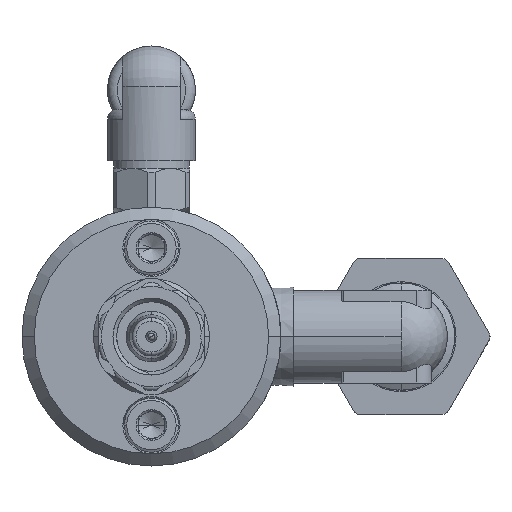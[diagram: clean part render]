
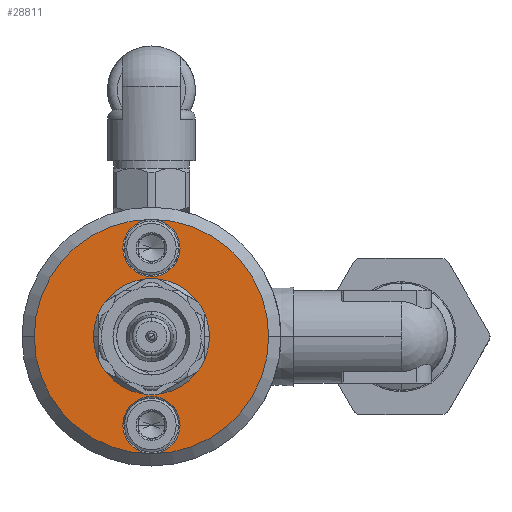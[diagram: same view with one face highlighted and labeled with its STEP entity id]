
A CAD part, front view. The second image highlights one B-rep face of the part: STEP entity #28811.
In plain terms, the highlighted planar face has unit normal (0, -1, 0).
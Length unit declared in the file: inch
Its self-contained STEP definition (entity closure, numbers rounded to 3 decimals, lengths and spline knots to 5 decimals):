
#455 = EDGE_CURVE ( 'NONE', #2582, #9539, #8352, .T. ) ;
#805 = DIRECTION ( 'NONE',  ( 0., -1., 0. ) ) ;
#2208 = CARTESIAN_POINT ( 'NONE',  ( 0., -0.875, 0. ) ) ;
#2582 = VERTEX_POINT ( 'NONE', #26136 ) ;
#2835 = CARTESIAN_POINT ( 'NONE',  ( 0., -0.875, 0.2375 ) ) ;
#3048 = AXIS2_PLACEMENT_3D ( 'NONE', #6895, #42625, #25022 ) ;
#3772 = EDGE_LOOP ( 'NONE', ( #54488, #8629 ) ) ;
#6806 = CIRCLE ( 'NONE', #3048, 0.117 ) ;
#6895 = CARTESIAN_POINT ( 'NONE',  ( 0., -0.875, -0.3625 ) ) ;
#7661 = DIRECTION ( 'NONE',  ( 1., 0., 0. ) ) ;
#7795 = FACE_BOUND ( 'NONE', #9632, .T. ) ;
#7963 = AXIS2_PLACEMENT_3D ( 'NONE', #33498, #20331, #38191 ) ;
#8094 = PLANE ( 'NONE',  #39890 ) ;
#8352 = CIRCLE ( 'NONE', #57918, 0.117 ) ;
#8629 = ORIENTED_EDGE ( 'NONE', *, *, #9561, .T. ) ;
#9539 = VERTEX_POINT ( 'NONE', #16868 ) ;
#9561 = EDGE_CURVE ( 'NONE', #14913, #14944, #54001, .T. ) ;
#9632 = EDGE_LOOP ( 'NONE', ( #32174, #35870 ) ) ;
#10033 = CIRCLE ( 'NONE', #42749, 0.2375 ) ;
#11746 = EDGE_LOOP ( 'NONE', ( #55414, #28867 ) ) ;
#11786 = DIRECTION ( 'NONE',  ( 0., -1., 0. ) ) ;
#14214 = CARTESIAN_POINT ( 'NONE',  ( -0.2375, -0.875, 0. ) ) ;
#14913 = VERTEX_POINT ( 'NONE', #29399 ) ;
#14944 = VERTEX_POINT ( 'NONE', #47906 ) ;
#15330 = EDGE_CURVE ( 'NONE', #41806, #39871, #37256, .T. ) ;
#15612 = EDGE_CURVE ( 'NONE', #9539, #2582, #34492, .T. ) ;
#15787 = CARTESIAN_POINT ( 'NONE',  ( 0.2375, -0.875, 0. ) ) ;
#16868 = CARTESIAN_POINT ( 'NONE',  ( 0.117, -0.875, 0.3625 ) ) ;
#17959 = ORIENTED_EDGE ( 'NONE', *, *, #15612, .F. ) ;
#18622 = AXIS2_PLACEMENT_3D ( 'NONE', #37747, #33061, #51834 ) ;
#20331 = DIRECTION ( 'NONE',  ( 0., -1., 0. ) ) ;
#20447 = AXIS2_PLACEMENT_3D ( 'NONE', #38685, #11786, #47205 ) ;
#20808 = DIRECTION ( 'NONE',  ( 0., -1., 0. ) ) ;
#22580 = EDGE_CURVE ( 'NONE', #14944, #14913, #55635, .T. ) ;
#25022 = DIRECTION ( 'NONE',  ( -1., 0., 0. ) ) ;
#26136 = CARTESIAN_POINT ( 'NONE',  ( -0.117, -0.875, 0.3625 ) ) ;
#27104 = CARTESIAN_POINT ( 'NONE',  ( 0., -0.875, 0. ) ) ;
#27721 = CARTESIAN_POINT ( 'NONE',  ( -0.117, -0.875, -0.3625 ) ) ;
#27833 = CARTESIAN_POINT ( 'NONE',  ( 0., -0.875, -0.3625 ) ) ;
#28811 = ADVANCED_FACE ( 'NONE', ( #30287, #48208, #42946, #7795 ), #8094, .T. ) ;
#28867 = ORIENTED_EDGE ( 'NONE', *, *, #55814, .F. ) ;
#29399 = CARTESIAN_POINT ( 'NONE',  ( 0.48, -0.875, 0. ) ) ;
#30287 = FACE_BOUND ( 'NONE', #11746, .T. ) ;
#32174 = ORIENTED_EDGE ( 'NONE', *, *, #53404, .F. ) ;
#33061 = DIRECTION ( 'NONE',  ( 0., -1., 0. ) ) ;
#33498 = CARTESIAN_POINT ( 'NONE',  ( 0., -0.875, 0. ) ) ;
#33834 = ORIENTED_EDGE ( 'NONE', *, *, #455, .F. ) ;
#34492 = CIRCLE ( 'NONE', #18622, 0.117 ) ;
#34992 = DIRECTION ( 'NONE',  ( 0., -1., 0. ) ) ;
#35870 = ORIENTED_EDGE ( 'NONE', *, *, #15330, .F. ) ;
#36722 = DIRECTION ( 'NONE',  ( 1., 0., 0. ) ) ;
#37081 = AXIS2_PLACEMENT_3D ( 'NONE', #27104, #805, #54094 ) ;
#37256 = CIRCLE ( 'NONE', #20447, 0.2375 ) ;
#37747 = CARTESIAN_POINT ( 'NONE',  ( 0., -0.875, 0.3625 ) ) ;
#38191 = DIRECTION ( 'NONE',  ( 1., 0., 0. ) ) ;
#38685 = CARTESIAN_POINT ( 'NONE',  ( 0., -0.875, 0. ) ) ;
#39871 = VERTEX_POINT ( 'NONE', #15787 ) ;
#39890 = AXIS2_PLACEMENT_3D ( 'NONE', #2835, #34992, #52310 ) ;
#41343 = DIRECTION ( 'NONE',  ( 0., -1., 0. ) ) ;
#41806 = VERTEX_POINT ( 'NONE', #14214 ) ;
#42625 = DIRECTION ( 'NONE',  ( 0., -1., 0. ) ) ;
#42749 = AXIS2_PLACEMENT_3D ( 'NONE', #2208, #54623, #36722 ) ;
#42946 = FACE_OUTER_BOUND ( 'NONE', #3772, .T. ) ;
#43855 = AXIS2_PLACEMENT_3D ( 'NONE', #27833, #41343, #50423 ) ;
#44481 = CARTESIAN_POINT ( 'NONE',  ( 0.117, -0.875, -0.3625 ) ) ;
#46895 = CARTESIAN_POINT ( 'NONE',  ( 0., -0.875, 0.3625 ) ) ;
#46941 = EDGE_CURVE ( 'NONE', #52960, #52985, #6806, .T. ) ;
#47205 = DIRECTION ( 'NONE',  ( 1., 0., 0. ) ) ;
#47906 = CARTESIAN_POINT ( 'NONE',  ( -0.48, -0.875, 0. ) ) ;
#48208 = FACE_BOUND ( 'NONE', #54078, .T. ) ;
#48510 = CIRCLE ( 'NONE', #43855, 0.117 ) ;
#50423 = DIRECTION ( 'NONE',  ( -1., 0., 0. ) ) ;
#51834 = DIRECTION ( 'NONE',  ( 1., 0., 0. ) ) ;
#52310 = DIRECTION ( 'NONE',  ( 1., 0., 0. ) ) ;
#52960 = VERTEX_POINT ( 'NONE', #44481 ) ;
#52985 = VERTEX_POINT ( 'NONE', #27721 ) ;
#53404 = EDGE_CURVE ( 'NONE', #39871, #41806, #10033, .T. ) ;
#54001 = CIRCLE ( 'NONE', #37081, 0.48 ) ;
#54078 = EDGE_LOOP ( 'NONE', ( #17959, #33834 ) ) ;
#54094 = DIRECTION ( 'NONE',  ( 1., 0., 0. ) ) ;
#54488 = ORIENTED_EDGE ( 'NONE', *, *, #22580, .T. ) ;
#54623 = DIRECTION ( 'NONE',  ( 0., -1., 0. ) ) ;
#55414 = ORIENTED_EDGE ( 'NONE', *, *, #46941, .F. ) ;
#55635 = CIRCLE ( 'NONE', #7963, 0.48 ) ;
#55814 = EDGE_CURVE ( 'NONE', #52985, #52960, #48510, .T. ) ;
#57918 = AXIS2_PLACEMENT_3D ( 'NONE', #46895, #20808, #7661 ) ;
